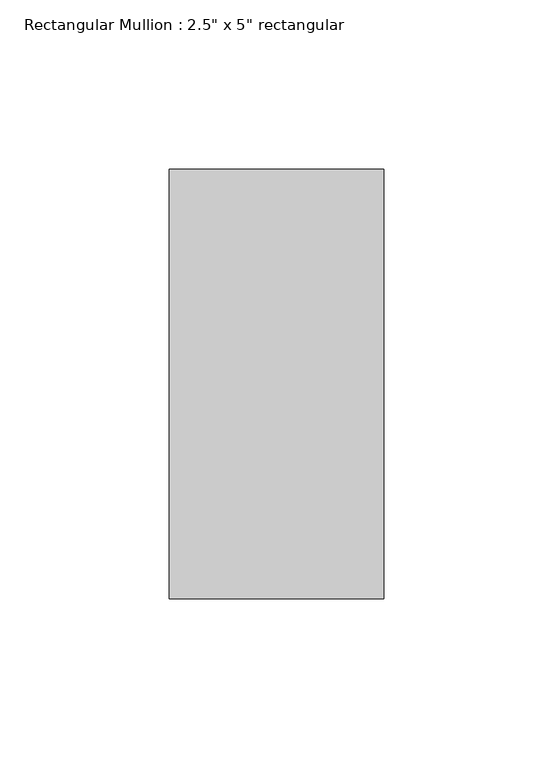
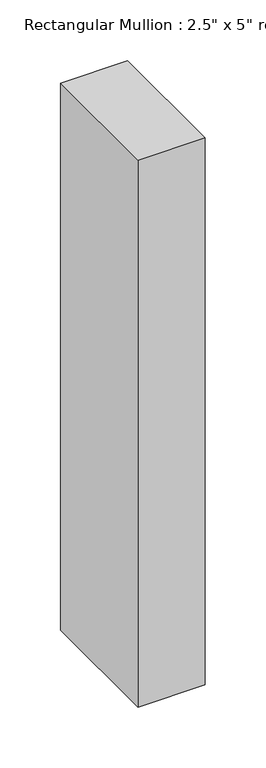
"""IFC4 building model written with IfcOpenShell, lengths in millimetres: member geometry."""

from ifc_helpers import new_model, si_unit, frame, origin, place, context, project, spatial, polyline, outline, extrude, source, transform, mapped, element, save


def member_6b4bb7dc(model_context):
    return source(origin(), model_context, "Body", "SweptSolid", [
        extrude(outline(polyline([(31.75, 63.5), (31.75, -63.5), (-31.75, -63.5), (-31.75, 63.5), (31.75, 63.5)])), frame((0.0, 0.0, -547.9143649), z_axis=(0.0, 0.0, 1.0), x_axis=(1.0, 0.0, 0.0)), (0.0, 0.0, 1.0), 547.9143649),
    ])


if __name__ == "__main__":
    model = new_model("IFC4")
    model_context = context("Model", 3, world=origin())
    ifc_project = project(units=[si_unit("LENGTHUNIT", "METRE", prefix="MILLI")], contexts=[model_context])
    site = spatial("IfcSite", under=ifc_project)
    building = spatial("IfcBuilding", under=site)
    placement = place(None, origin())
    member_shape = member_6b4bb7dc(model_context)
    element("IfcMember", 1, ObjectType="Rectangular Mullion : 2.5\" x 5\" rectangular", at=placement, inside=building, context=model_context, shape_type="MappedRepresentation", body=[
        mapped(member_shape, transform((0.0, 0.0, 0.0), x_axis=(1.0, 0.0, 0.0), y_axis=(0.0, 1.0, 0.0), z_axis=(0.0, 0.0, 1.0))),
    ])
    save(model, "model.ifc")
